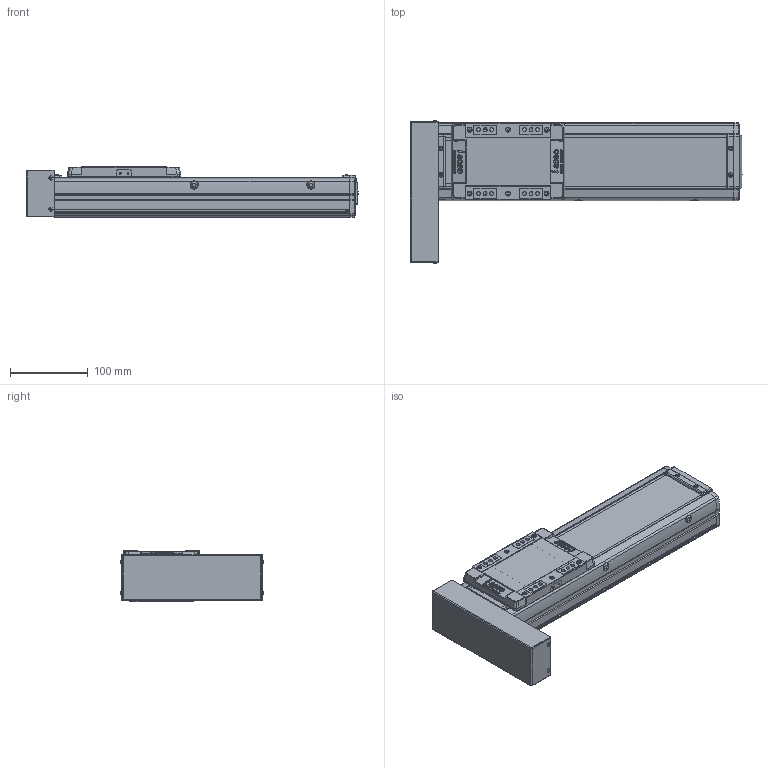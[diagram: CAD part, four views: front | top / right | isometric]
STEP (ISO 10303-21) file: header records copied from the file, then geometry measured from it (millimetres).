
FILE_DESCRIPTION(('STEP AP214'),'1');
FILE_NAME('Z:/Web/3D/SAN100/SAN100 양산용 (STEP)/SAN100ㅁㅁ-200PR.stp','2013-04-25T01:09:11',(' '),(' '),'Spatial InterOp 3D',' ',' ');
FILE_SCHEMA(('automotive_design'));
Length unit declared in the file: millimetre
Products named in the file (31): SUS COVER; SFX-SAN100; RRCV-SAN100; 스크루 : Round - M4.0 x 10.0; M3.0 x 6.0; 스크루 : Round - M3.0 x 6.0; FRBL-SAN100; SLBL-SAN100; SLCV-SAN100; 스크루 : Countersunk - M3.0 x 6.0; BASE; 스크루 : Round - M5.0 x 6.0; BTCV-SAN65; BHCS M3 X 6L
Bounding box: 426.5 x 184.13 x 66 mm (x, y, z)
Volume: 1544913 mm3; surface area: 357177.8 mm2
Topology: 31 solids, 32 shells, 1836 faces, 4784 edges, 3081 vertices
Faces by surface type: plane 925, cylinder 675, cone 158, sphere 44, torus 18, bspline 16
Entity records: 72354 total; most frequent: CARTESIAN_POINT 10942, DIRECTION 10083, ORIENTED_EDGE 9412, EDGE_CURVE 4706, AXIS2_PLACEMENT_3D 3603, VERTEX_POINT 3081, LINE 2877, VECTOR 2877
